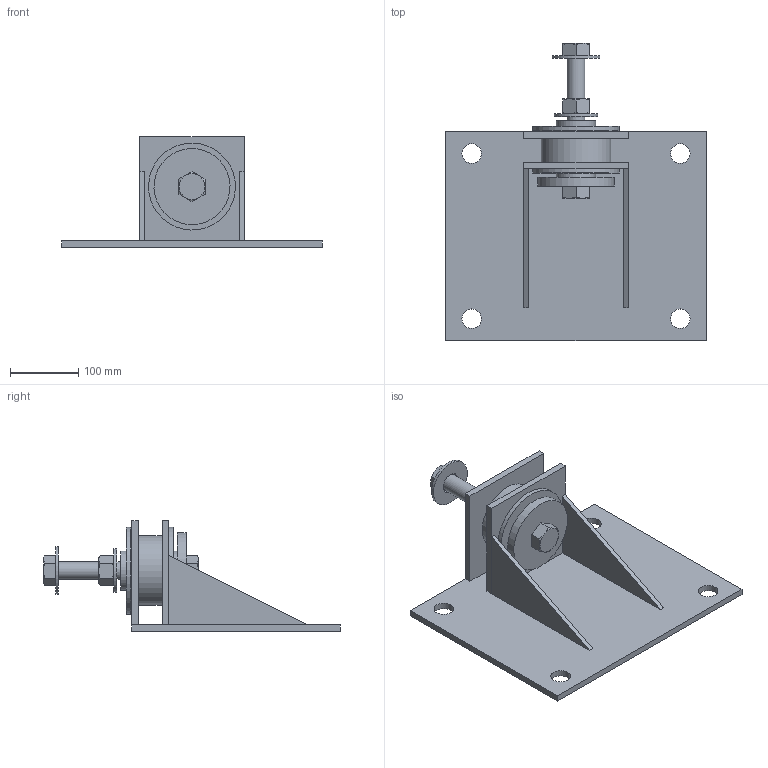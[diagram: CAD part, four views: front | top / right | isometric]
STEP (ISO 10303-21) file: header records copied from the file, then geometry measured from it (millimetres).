
FILE_DESCRIPTION((''),'2;1');
FILE_NAME('C:\2012_Work\Designs\Z-1225\Z-1225-5000\A-16082-6 Z-1225-5000 ASSY.stp','2013-10-02T15:38:29',('KShiels'),(''),'Autodesk Inventor 2012','Autodesk Inventor 2012','');
FILE_SCHEMA(('AUTOMOTIVE_DESIGN { 1 0 10303 214 1 1 1 1 }'));
Length unit declared in the file: inch
Products named in the file (14): A-16082-6 Z-1225-5000 ASSY; A-16082-6 BASE PLATE Z-1225-5000; A-16082-6 SIDE PLATE Z-1225-5000; A-16082-6 GUSSET Z-1225-5000; ANSI_AISC  - 3 1_2-1.375(2); A-16082-6 WASHER Z-1225-5000; A-16082-6 STEEL BUSHING Z-1225-5000; Hex Bolt - Inch 1-8 UNC - 1.5; A-17133-1 ANCHOR BOLT Z-1225-5000; Hex Bolt - Inch 1-8 UNC - 6; Plain Washer (Inch) 1 1/8 - Regular - Type B; Plain Washer (Inch) 1 - Regular - Type B; Hex Nut - Inch 1 - 8; A-16393-1 NEOPRENE BUSHING Z-1225-5000
Assembly tree (15 placements, depth 3):
  A-16082-6 Z-1225-5000 ASSY
    A-16082-6 BASE PLATE Z-1225-5000
    A-16082-6 SIDE PLATE Z-1225-5000  x2
    A-16082-6 GUSSET Z-1225-5000  x2
    ANSI_AISC  - 3 1_2-1.375(2)
    A-16082-6 WASHER Z-1225-5000
    A-16082-6 STEEL BUSHING Z-1225-5000
    Hex Bolt - Inch 1-8 UNC - 1.5
    A-17133-1 ANCHOR BOLT Z-1225-5000
      Hex Bolt - Inch 1-8 UNC - 6
      Plain Washer (Inch) 1 1/8 - Regular - Type B
      Plain Washer (Inch) 1 - Regular - Type B
      Hex Nut - Inch 1 - 8
    A-16393-1 NEOPRENE BUSHING Z-1225-5000
Bounding box: 381 x 433.71 x 161.93 mm (x, y, z)
Volume: 2274698.1 mm3; surface area: 560629.6 mm2
Topology: 14 solids, 14 shells, 138 faces, 282 edges, 176 vertices
Faces by surface type: plane 80, cone 30, cylinder 26, torus 2
Full cylindrical faces by diameter (mm): 21.971 x2, 25.4 x2, 25.959 x1, 26.975 x1, 26.988 x1, 28.575 x4, 30.175 x1, 38.1 x2, 57.15 x1, 63.5 x1, 69.85 x1, 73.025 x1, 85.725 x1, 88.9 x2, 90.119 x1, 101.6 x1, 111.125 x1, 127 x2
Entity records: 3494 total; most frequent: CARTESIAN_POINT 614, DIRECTION 567, ORIENTED_EDGE 428, AXIS2_PLACEMENT_3D 246, EDGE_CURVE 214, EDGE_LOOP 187, VERTEX_POINT 149, FACE_OUTER_BOUND 126
